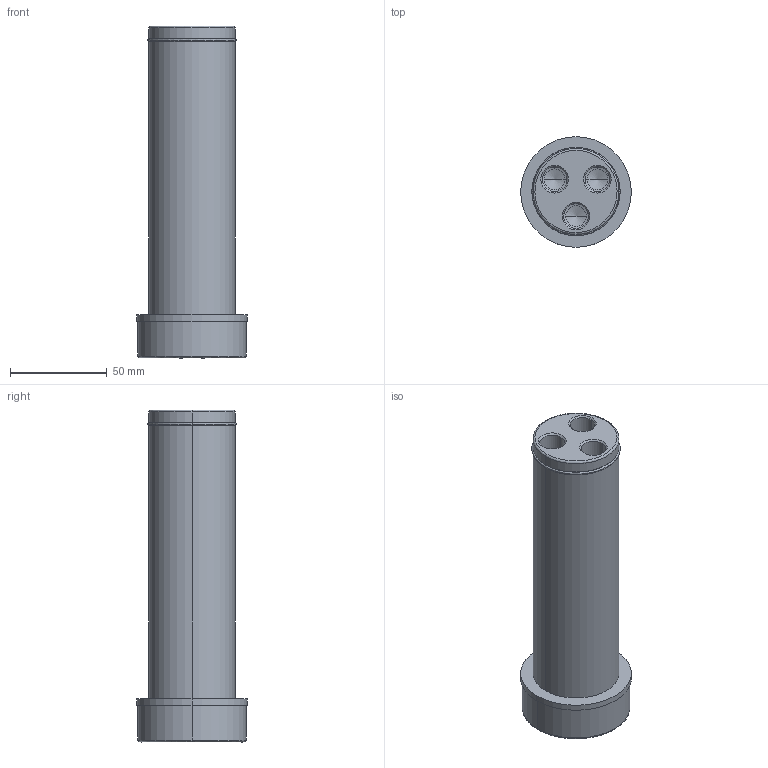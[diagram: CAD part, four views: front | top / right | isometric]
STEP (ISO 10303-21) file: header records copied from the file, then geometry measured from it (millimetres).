
FILE_DESCRIPTION (( 'STEP AP214' ), '1' );
FILE_NAME ('GK180-E-XXX-GuidePin.STEP', '2020-10-21T11:35:40', ( '' ), ( '' ), 'SwSTEP 2.0', 'SolidWorks 2017', '' );
FILE_SCHEMA (( 'AUTOMOTIVE_DESIGN' ));
Length unit declared in the file: inch
Products named in the file (4): GK180-E-XXX-GuidePin; GK180-Cring; GK180-DampeningWasher
Assembly tree (3 placements, depth 2):
  GK180-E-XXX-GuidePin
    GK180-E-XXX-GuidePin
    GK180-DampeningWasher
    GK180-Cring
Bounding box: 57.15 x 57.15 x 171.45 mm (x, y, z)
Volume: 273281.7 mm3; surface area: 37332.7 mm2
Topology: 3 solids, 3 shells, 59 faces, 122 edges, 67 vertices
Faces by surface type: cylinder 22, cone 18, bspline 12, plane 7
Entity records: 2390 total; most frequent: CARTESIAN_POINT 866, DIRECTION 278, ORIENTED_EDGE 232, AXIS2_PLACEMENT_3D 119, EDGE_CURVE 116, EDGE_LOOP 67, VERTEX_POINT 67, CIRCLE 66
